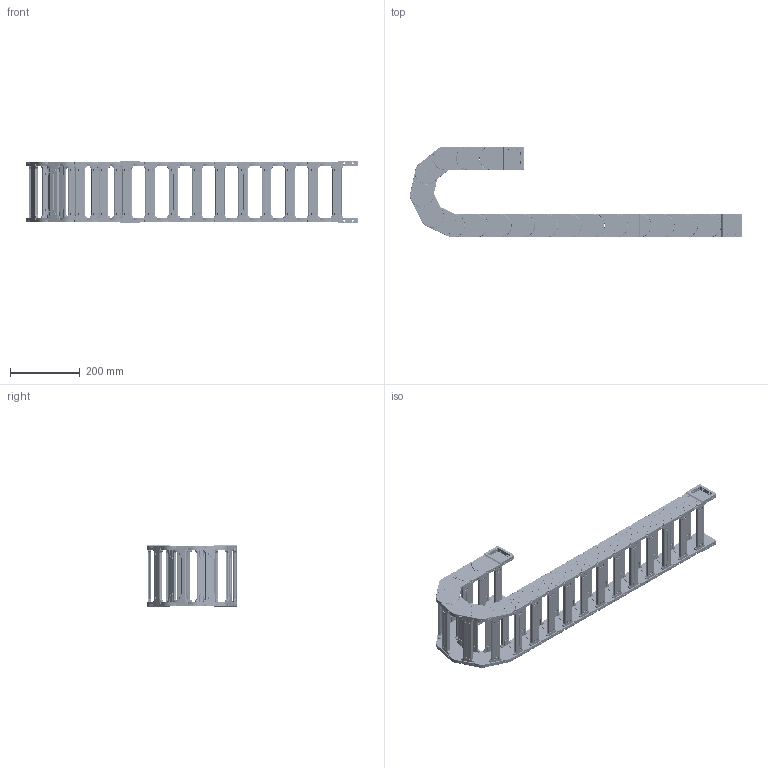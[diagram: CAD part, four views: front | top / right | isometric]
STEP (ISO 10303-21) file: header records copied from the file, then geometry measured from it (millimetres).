
FILE_DESCRIPTION (( 'STEP AP214' ), '1' );
FILE_NAME ('J45Q.1.150S-3D賦凳芞.STEP', '2019-01-10T00:12:52', ( 'Sky123.Org' ), ( 'Sky123.Org' ), 'SwSTEP 2.0', 'SolidWorks 2017', '' );
FILE_SCHEMA (( 'AUTOMOTIVE_DESIGN' ));
Length unit declared in the file: millimetre
Products named in the file (10): 5-N45X100-1; J45.1結え; 45-崝Ч翋极2; 45-崝Ч翋极1-R250; J45Q.1.150S-3D賦凳芞; 5-N45X75-源諉俋; 45-N源諉芛俋; 5-N45X75-源諉囀; 45-臏簽1; 45-N源諉芛囀
Assembly tree (55 placements, depth 3):
  J45Q.1.150S-3D賦凳芞
    5-N45X100-1  x17
      45-崝Ч翋极1-R250
      45-崝Ч翋极2
      J45.1結え
    5-N45X75-源諉囀
      45-N源諉芛囀  x2
      J45.1結え  x2
      45-臏簽1  x12
    5-N45X75-源諉俋
      45-N源諉芛俋  x2
      J45.1結え  x2
      45-臏簽1  x12
Bounding box: 954.91 x 261 x 179 mm (x, y, z)
Volume: 3124634.4 mm3; surface area: 1310460.9 mm2
Topology: 100 solids, 100 shells, 20080 faces, 51658 edges, 31520 vertices
Faces by surface type: plane 7348, cylinder 6440, bspline 3788, torus 1508, sphere 768, cone 228
Entity records: 33152 total; most frequent: CARTESIAN_POINT 10875, ORIENTED_EDGE 4608, DIRECTION 4494, EDGE_CURVE 2304, AXIS2_PLACEMENT_3D 1615, VERTEX_POINT 1438, VECTOR 1264, LINE 1264
